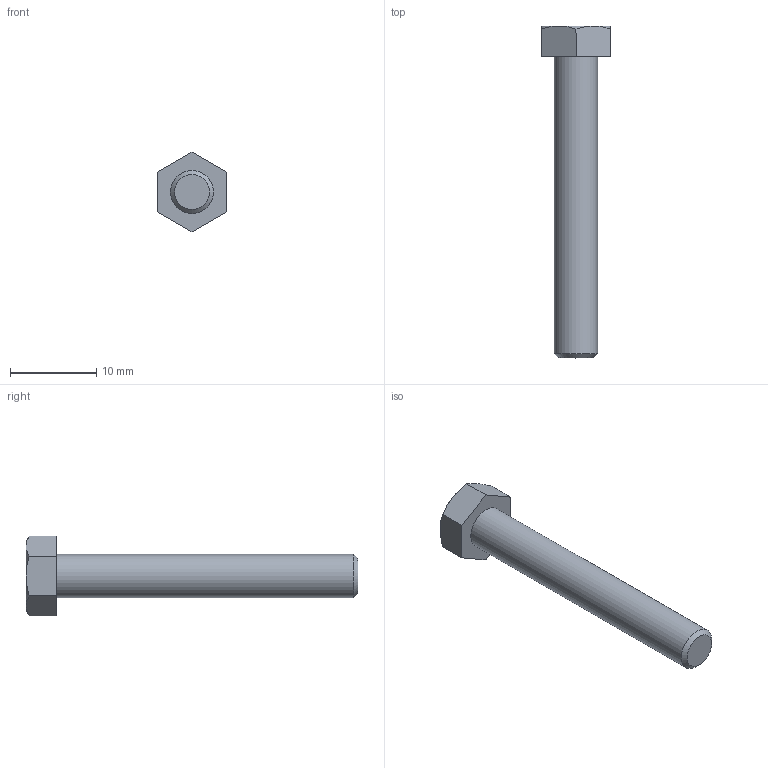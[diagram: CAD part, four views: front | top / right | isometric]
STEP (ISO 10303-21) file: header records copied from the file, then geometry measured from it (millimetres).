
FILE_DESCRIPTION(/* description */ (''),/* implementation_level */ '2;1');
FILE_NAME(/* name */ 'C:\Users\unitec\Documents\Inventor\各種小物\JIS\JIS B 1180 六角ボルト 等級C\hbc5\M5x35.stp',/* time_stamp */ '2015-02-13T14:49:04+09:00',/* author */ ('unitec'),/* organization */ (''),/* preprocessor_version */ 'ST-DEVELOPER v15.2',/* originating_system */ 'Autodesk Inventor 2014',/* authorisation */ '');
FILE_SCHEMA (('AUTOMOTIVE_DESIGN { 1 0 10303 214 3 1 1 }'));
Length unit declared in the file: millimetre
Products named in the file (1): M5x35
Bounding box: 8 x 38.5 x 9.24 mm (x, y, z)
Volume: 878.9 mm3; surface area: 750.2 mm2
Topology: 1 solids, 1 shells, 17 faces, 35 edges, 21 vertices
Faces by surface type: plane 9, cone 7, cylinder 1
Full cylindrical faces by diameter (mm): 5 x1
Entity records: 441 total; most frequent: CARTESIAN_POINT 96, ORIENTED_EDGE 66, DIRECTION 66, EDGE_CURVE 33, AXIS2_PLACEMENT_3D 27, VERTEX_POINT 21, EDGE_LOOP 20, ADVANCED_FACE 17
